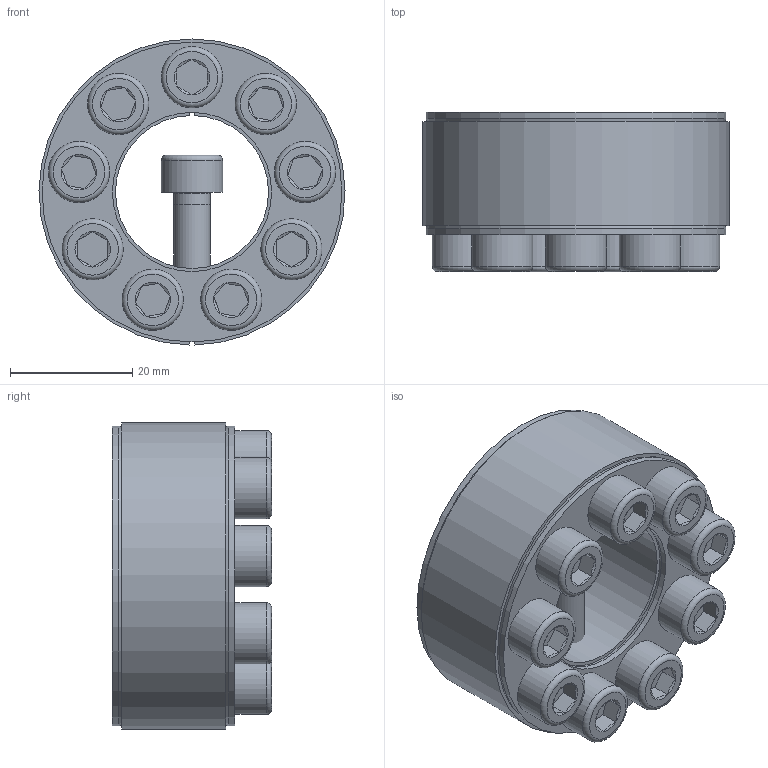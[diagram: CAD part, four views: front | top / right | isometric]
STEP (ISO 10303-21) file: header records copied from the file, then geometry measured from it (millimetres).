
FILE_DESCRIPTION( ( 'Unknown' ), '1' );
FILE_NAME( 'C:/Dokumente und Einstellungen/Sven/Desktop/homepage/cad - homepage/KBS40/KBS 40 - 25 x 50.stp', 'Unknown', ( 'Unknown' ), ( 'Unknown' ), 'XStep 1.0', 'Unknown', ' ' );
FILE_SCHEMA( ( 'automotive_design' ) );
Length unit declared in the file: millimetre
Products named in the file (11): Assem1; KBS 40 25x50; ISO 4762 M6x18; ISO 4762 M6x18-oa0; ISO 4762 M6x18-oa1; ISO 4762 M6x18-oa2; ISO 4762 M6x18-oa3; ISO 4762 M6x18-oa4; ISO 4762 M6x18-oa5; ISO 4762 M6x18-oa6; ISO 4762 M6x18-oa7
Bounding box: 50 x 26 x 50 mm (x, y, z)
Volume: 64270 mm3; surface area: 34578.7 mm2
Topology: 20 solids, 20 shells, 528 faces, 986 edges, 570 vertices
Faces by surface type: plane 256, cone 134, cylinder 102, torus 36
Full cylindrical faces by diameter (mm): 5 x18, 6 x54, 10 x18, 26 x4, 49 x4
Entity records: 6594 total; most frequent: CARTESIAN_POINT 1347, DIRECTION 1080, ORIENTED_EDGE 786, AXIS2_PLACEMENT_3D 466, EDGE_LOOP 400, EDGE_CURVE 393, FACE_OUTER_BOUND 331, VERTEX_POINT 265
